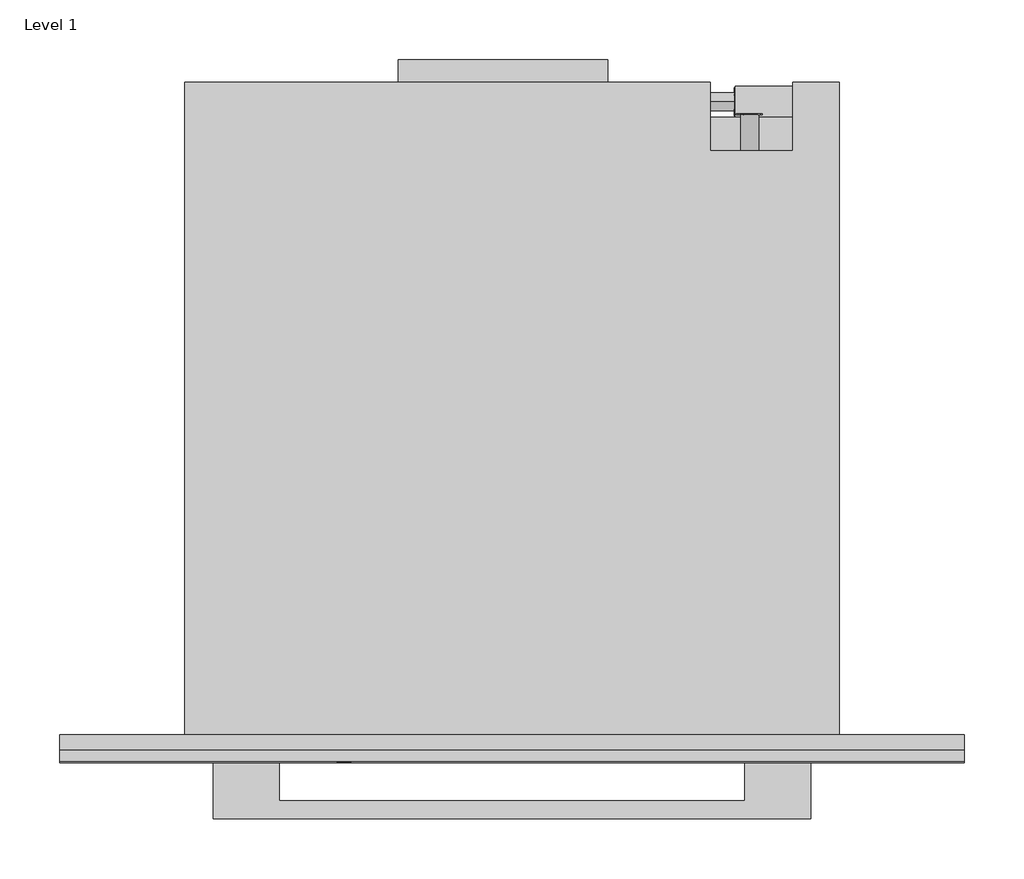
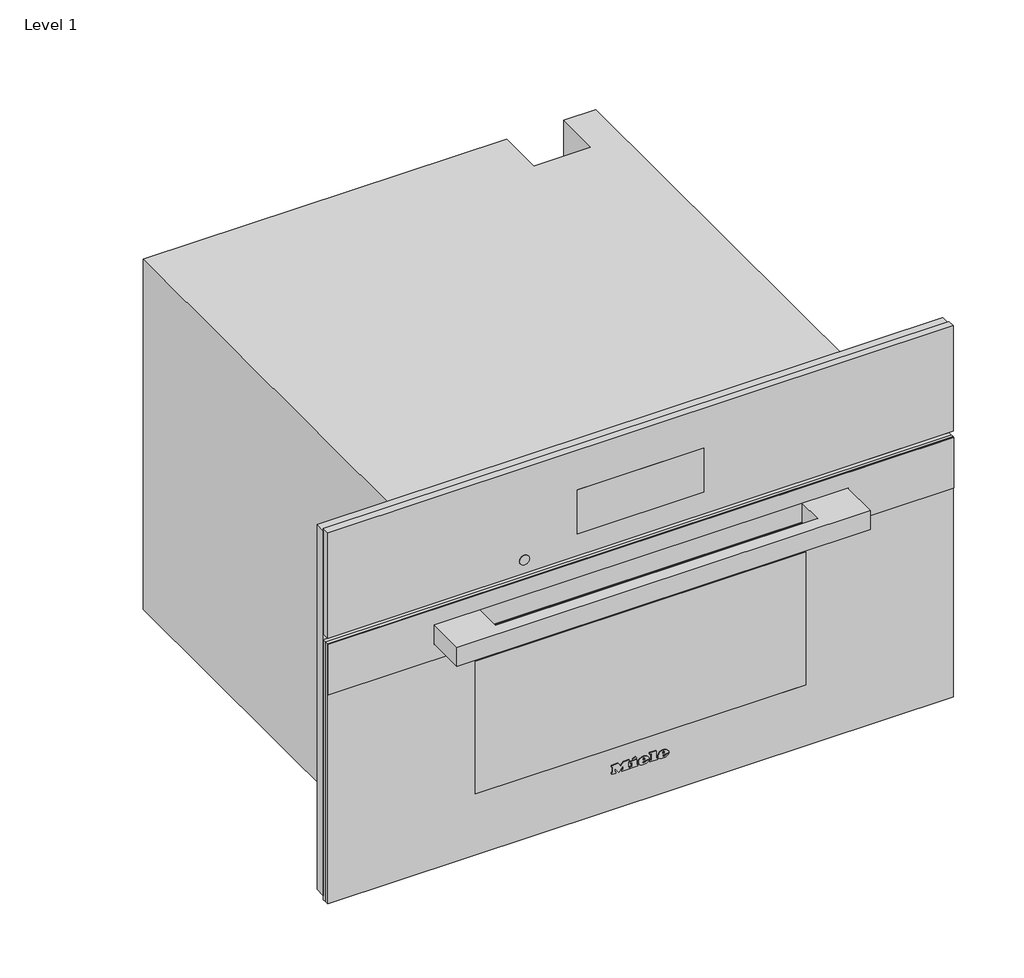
# One storey: 1 proxy.
"""IFC4 building model written with IfcOpenShell, lengths in millimetres."""

from ifc_helpers import new_model, si_unit, origin, place, context, project, spatial, transform, mapped, element, save
from components import specialty_equipment_21522c0e

model = new_model("IFC4")

# Units and contexts
model_context = context("Model", 3, world=origin())
ifc_project = project(units=[si_unit("LENGTHUNIT", "METRE", prefix="MILLI")], contexts=[model_context])

# Site, building, storey
site = spatial("IfcSite", under=ifc_project)
building = spatial("IfcBuilding", under=site)
storey = spatial("IfcBuildingStorey", under=building, Name="Level 1", Elevation=0.0)

# Proxy
placement = place(None, origin())
specialty_equipment_shape = specialty_equipment_21522c0e(model_context)
element("IfcBuildingElementProxy", 1, Name="11876050_USA_DGC7875_EDST-CLST : 23787542_USA_11876050_DGC7875_EDST-CLST", ObjectType="11876050_USA_DGC7875_EDST-CLST : 23787542_USA_11876050_DGC7875_EDST-CLST", at=placement, inside=storey, context=model_context, shape_type="MappedRepresentation", body=[
    mapped(specialty_equipment_shape, transform((0.0, 0.0, 0.0), x_axis=(1.0, 0.0, 0.0), y_axis=(0.0, 1.0, 0.0), z_axis=(0.0, 0.0, 1.0))),
])

save(model, "model.ifc")
